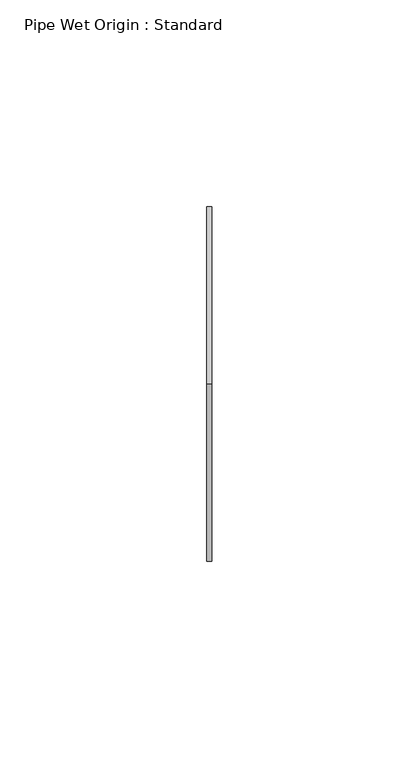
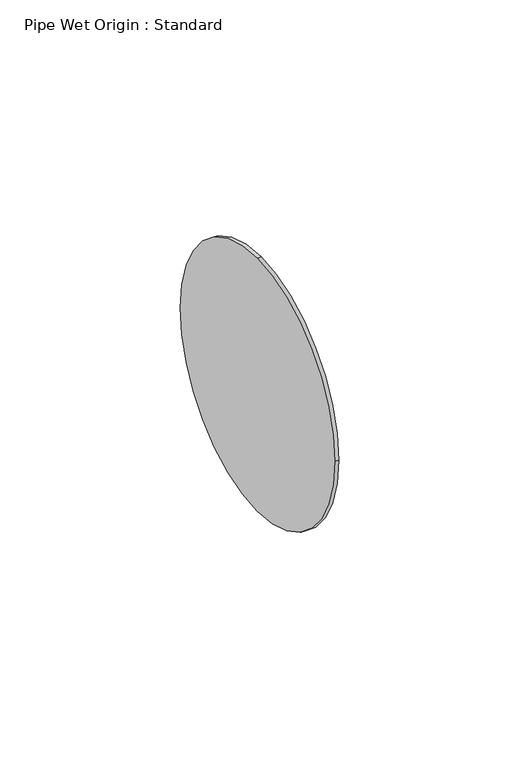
"""IFC4 building model written with IfcOpenShell, lengths in millimetres: proxy geometry, Pipe Wet Origin : Standard."""

from ifc_helpers import new_model, si_unit, point, frame, origin, origin_2d, place, context, project, spatial, circle_curve, trimmed, segment, composite_curve, outline, extrude, source, transform, mapped, element, save


def pipe_wet_origin_standard_e697f1e6(model_context):
    return source(origin(), model_context, "Body", "SweptSolid", [
        extrude(outline(composite_curve([segment(trimmed(circle_curve(origin_2d(), 42.8625), [point((0.0, 42.8625))], [point((42.8625, 0.0))], False, "CARTESIAN"), True, "CONTINUOUS"), segment(trimmed(circle_curve(origin_2d(), 42.8625), [point((42.8625, 0.0))], [point((0.0, -42.8625))], False, "CARTESIAN"), True, "CONTINUOUS"), segment(trimmed(circle_curve(origin_2d(), 42.8625), [point((0.0, -42.8625))], [point((-42.8625, 0.0))], False, "CARTESIAN"), True, "CONTINUOUS"), segment(trimmed(circle_curve(origin_2d(), 42.8625), [point((-42.8625, 0.0))], [point((0.0, 42.8625))], False, "CARTESIAN"), True, "CONTINUOUS")], self_intersect=False)), frame((0.0, 0.0, 0.0), z_axis=(1.0, 0.0, 0.0), x_axis=(0.0, 1.0, 0.0)), (0.0, 0.0, 1.0), 1.27),
        extrude(outline(composite_curve([segment(trimmed(circle_curve(origin_2d(), 42.8625), [point((0.0, 42.8625))], [point((42.8625, 0.0))], False, "CARTESIAN"), True, "CONTINUOUS"), segment(trimmed(circle_curve(origin_2d(), 42.8625), [point((42.8625, 0.0))], [point((0.0, -42.8625))], False, "CARTESIAN"), True, "CONTINUOUS"), segment(trimmed(circle_curve(origin_2d(), 42.8625), [point((0.0, -42.8625))], [point((-42.8625, 0.0))], False, "CARTESIAN"), True, "CONTINUOUS"), segment(trimmed(circle_curve(origin_2d(), 42.8625), [point((-42.8625, 0.0))], [point((0.0, 42.8625))], False, "CARTESIAN"), True, "CONTINUOUS")], self_intersect=False)), frame((0.0, 0.0, 0.0), z_axis=(1.0, 0.0, 0.0), x_axis=(0.0, 1.0, 0.0)), (0.0, 0.0, 1.0), 1.27),
    ])


if __name__ == "__main__":
    model = new_model("IFC4")
    model_context = context("Model", 3, world=origin())
    ifc_project = project(units=[si_unit("LENGTHUNIT", "METRE", prefix="MILLI")], contexts=[model_context])
    site = spatial("IfcSite", under=ifc_project)
    building = spatial("IfcBuilding", under=site)
    placement = place(None, origin())
    pipe_wet_origin_standard_shape = pipe_wet_origin_standard_e697f1e6(model_context)
    element("IfcBuildingElementProxy", 1, Name="Pipe Wet Origin : Standard", ObjectType="Pipe Wet Origin : Standard", at=placement, inside=building, context=model_context, shape_type="MappedRepresentation", body=[
        mapped(pipe_wet_origin_standard_shape, transform((0.0, 0.0, 0.0), x_axis=(1.0, 0.0, 0.0), y_axis=(0.0, 1.0, 0.0), z_axis=(0.0, 0.0, 1.0))),
    ])
    save(model, "model.ifc")
